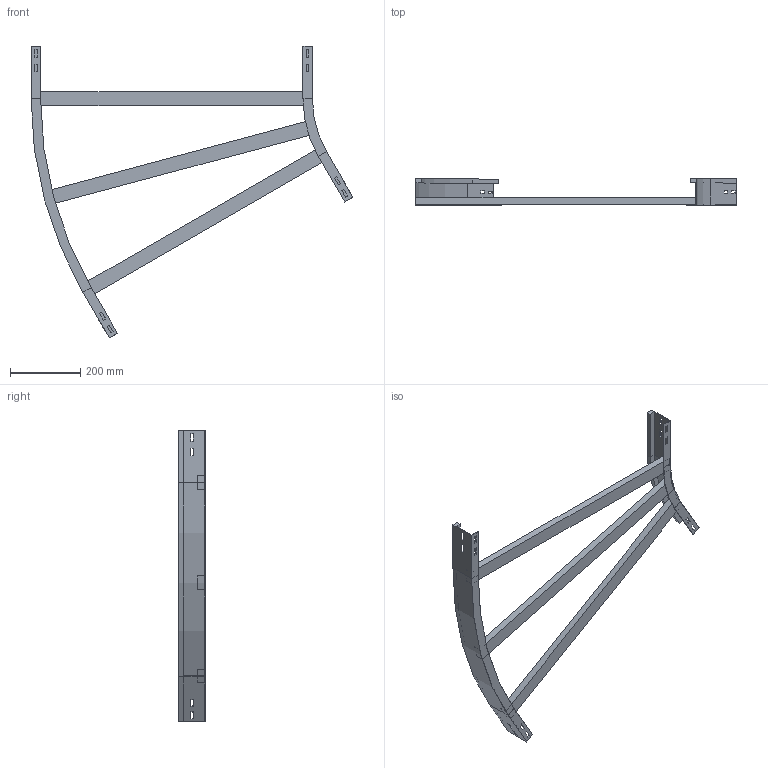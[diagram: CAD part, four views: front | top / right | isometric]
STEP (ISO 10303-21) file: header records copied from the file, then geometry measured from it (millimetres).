
FILE_DESCRIPTION (( 'STEP AP214' ), '1' );
FILE_NAME ('A2_12B3C800.step', '2025-02-21T15:10:55', ( '' ), ( '' ), 'SwSTEP 2.0', 'SolidWorks 2023', '' );
FILE_SCHEMA (( 'AUTOMOTIVE_DESIGN' ));
Length unit declared in the file: millimetre
Products named in the file (4): A2_LONGH.INTERNO 30°_H75_R300; A2_LONGH.ESTERNO 30°_H75_R300+800; A2_12B3C800; TRAVERSINO_800
Assembly tree (5 placements, depth 2):
  A2_12B3C800
    A2_LONGH.INTERNO 30°_H75_R300
    A2_LONGH.ESTERNO 30°_H75_R300+800
    TRAVERSINO_800  x3
Bounding box: 915.19 x 75 x 829.9 mm (x, y, z)
Volume: 2451903 mm3; surface area: 606901 mm2
Topology: 5 solids, 5 shells, 134 faces, 340 edges, 216 vertices
Faces by surface type: plane 126, cylinder 8
Entity records: 3821 total; most frequent: CARTESIAN_POINT 646, ORIENTED_EDGE 632, DIRECTION 592, EDGE_CURVE 316, LINE 300, VECTOR 300, VERTEX_POINT 200, EDGE_LOOP 154
